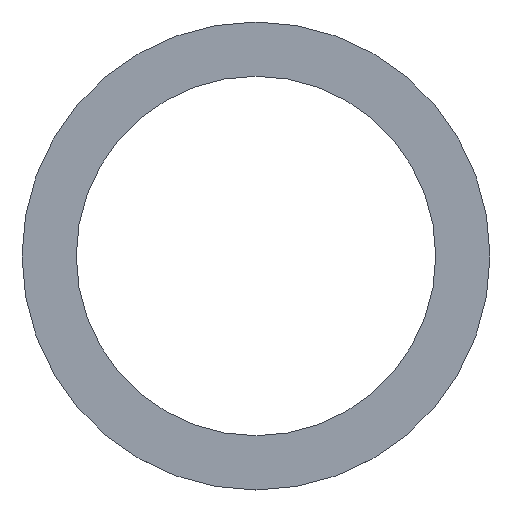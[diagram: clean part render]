
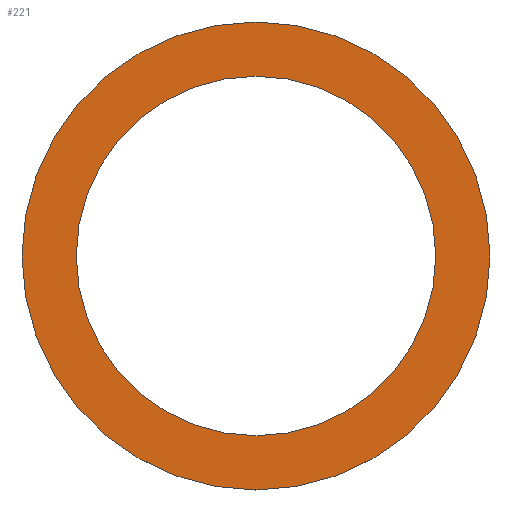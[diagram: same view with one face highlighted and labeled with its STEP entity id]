
A CAD part, top view. The second image highlights one B-rep face of the part: STEP entity #221.
In plain terms, the highlighted planar face has unit normal (0, 0, 1).
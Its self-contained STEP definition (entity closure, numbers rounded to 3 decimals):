
#2 = DIRECTION ( 'NONE',  ( 1., 0., 0. ) ) ;
#3 = DIRECTION ( 'NONE',  ( 1., 0., 0. ) ) ;
#19 = DIRECTION ( 'NONE',  ( 1., 0., 0. ) ) ;
#20 = CARTESIAN_POINT ( 'NONE',  ( 84.5, 0., 2. ) ) ;
#27 = AXIS2_PLACEMENT_3D ( 'NONE', #36, #150, #3 ) ;
#36 = CARTESIAN_POINT ( 'NONE',  ( 0., 0., 2. ) ) ;
#37 = CIRCLE ( 'NONE', #114, 84.5 ) ;
#45 = ORIENTED_EDGE ( 'NONE', *, *, #187, .T. ) ;
#52 = CIRCLE ( 'NONE', #27, 84.5 ) ;
#53 = ORIENTED_EDGE ( 'NONE', *, *, #90, .F. ) ;
#61 = AXIS2_PLACEMENT_3D ( 'NONE', #164, #130, #2 ) ;
#71 = PLANE ( 'NONE',  #61 ) ;
#85 = VERTEX_POINT ( 'NONE', #20 ) ;
#87 = CARTESIAN_POINT ( 'NONE',  ( -110., 0., 2. ) ) ;
#90 = EDGE_CURVE ( 'NONE', #85, #162, #52, .T. ) ;
#93 = FACE_OUTER_BOUND ( 'NONE', #136, .T. ) ;
#97 = EDGE_LOOP ( 'NONE', ( #123, #53 ) ) ;
#114 = AXIS2_PLACEMENT_3D ( 'NONE', #127, #149, #19 ) ;
#123 = ORIENTED_EDGE ( 'NONE', *, *, #198, .F. ) ;
#124 = CARTESIAN_POINT ( 'NONE',  ( 0., 0., 2. ) ) ;
#127 = CARTESIAN_POINT ( 'NONE',  ( 0., 0., 2. ) ) ;
#128 = CARTESIAN_POINT ( 'NONE',  ( -84.5, 0., 2. ) ) ;
#130 = DIRECTION ( 'NONE',  ( 0., 0., 1. ) ) ;
#136 = EDGE_LOOP ( 'NONE', ( #45, #218 ) ) ;
#140 = VERTEX_POINT ( 'NONE', #169 ) ;
#149 = DIRECTION ( 'NONE',  ( 0., 0., 1. ) ) ;
#150 = DIRECTION ( 'NONE',  ( 0., 0., 1. ) ) ;
#152 = AXIS2_PLACEMENT_3D ( 'NONE', #168, #209, #230 ) ;
#162 = VERTEX_POINT ( 'NONE', #128 ) ;
#164 = CARTESIAN_POINT ( 'NONE',  ( 0., 0., 2. ) ) ;
#168 = CARTESIAN_POINT ( 'NONE',  ( 0., 0., 2. ) ) ;
#169 = CARTESIAN_POINT ( 'NONE',  ( 110., 0., 2. ) ) ;
#179 = CIRCLE ( 'NONE', #193, 110. ) ;
#182 = DIRECTION ( 'NONE',  ( 0., 0., 1. ) ) ;
#187 = EDGE_CURVE ( 'NONE', #243, #140, #219, .T. ) ;
#193 = AXIS2_PLACEMENT_3D ( 'NONE', #124, #182, #228 ) ;
#198 = EDGE_CURVE ( 'NONE', #162, #85, #37, .T. ) ;
#209 = DIRECTION ( 'NONE',  ( 0., 0., 1. ) ) ;
#215 = EDGE_CURVE ( 'NONE', #140, #243, #179, .T. ) ;
#218 = ORIENTED_EDGE ( 'NONE', *, *, #215, .T. ) ;
#219 = CIRCLE ( 'NONE', #152, 110. ) ;
#221 = ADVANCED_FACE ( 'NONE', ( #93, #236 ), #71, .T. ) ;
#228 = DIRECTION ( 'NONE',  ( 1., 0., 0. ) ) ;
#230 = DIRECTION ( 'NONE',  ( 1., 0., 0. ) ) ;
#236 = FACE_BOUND ( 'NONE', #97, .T. ) ;
#243 = VERTEX_POINT ( 'NONE', #87 ) ;
